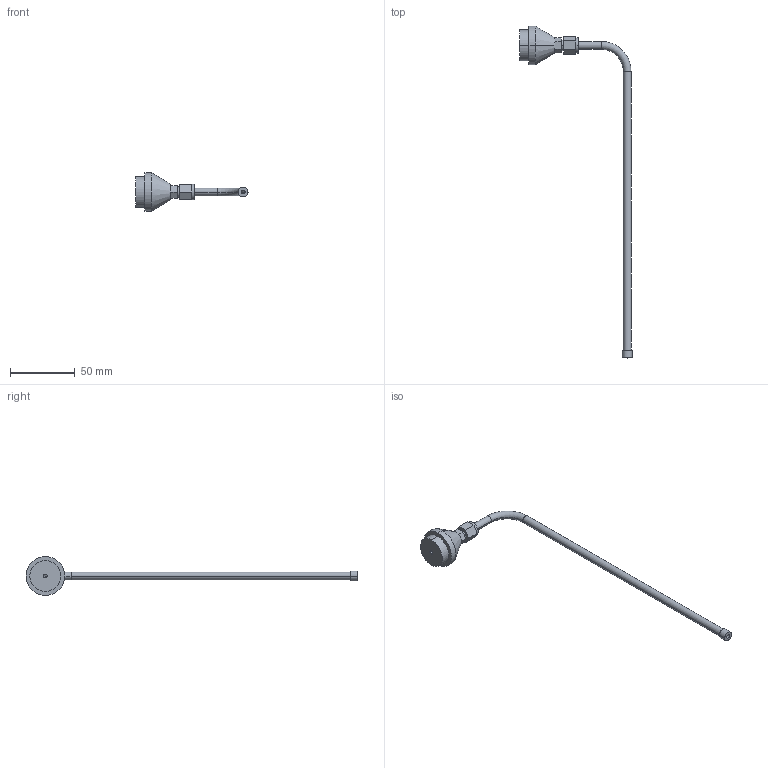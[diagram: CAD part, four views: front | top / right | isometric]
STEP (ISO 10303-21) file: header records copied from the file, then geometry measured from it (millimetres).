
FILE_DESCRIPTION (( 'STEP AP203' ), '1' );
FILE_NAME ('ER-AL20.STEP', '2005-09-05T02:10:04', ( '' ), ( '' ), 'SwSTEP 2.0', 'SolidWorks 2004073', '' );
FILE_SCHEMA (( 'CONFIG_CONTROL_DESIGN' ));
Length unit declared in the file: millimetre
Products named in the file (1): ER-AL20
Bounding box: 86.8 x 257 x 30 mm (x, y, z)
Volume: 19629.7 mm3; surface area: 12023.3 mm2
Topology: 1 solids, 1 shells, 92 faces, 362 edges, 236 vertices
Faces by surface type: cylinder 60, plane 26, torus 4, cone 2
Entity records: 4605 total; most frequent: CARTESIAN_POINT 1741, ORIENTED_EDGE 724, DIRECTION 428, EDGE_CURVE 362, VERTEX_POINT 236, B_SPLINE_CURVE_WITH_KNOTS 168, LINE 146, VECTOR 146
